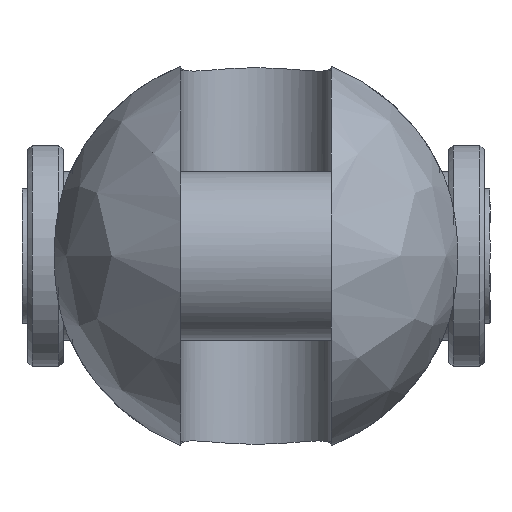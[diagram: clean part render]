
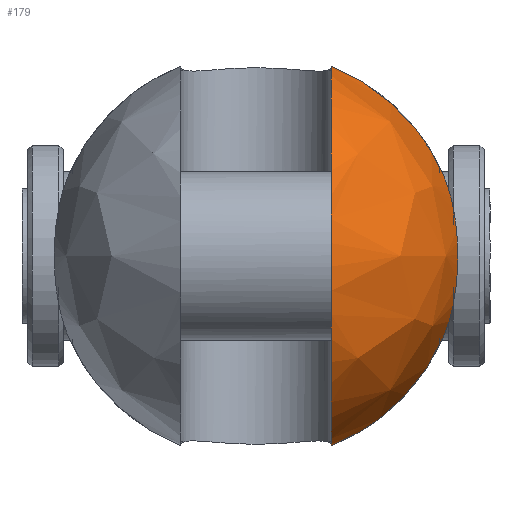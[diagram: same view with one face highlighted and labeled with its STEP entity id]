
A CAD part, left-side view. The second image highlights one B-rep face of the part: STEP entity #179.
In plain terms, the highlighted free-form (B-spline) face has degree [2, 2] with [9, 5] control points.
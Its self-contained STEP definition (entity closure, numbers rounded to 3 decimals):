
#179=ADVANCED_FACE('',(#320),#2417,.T.);
#320=FACE_OUTER_BOUND('',#481,.T.);
#481=EDGE_LOOP('',(#1194,#1195,#1196,#1197));
#1194=ORIENTED_EDGE('',*,*,#1579,.T.);
#1195=ORIENTED_EDGE('',*,*,#1600,.F.);
#1196=ORIENTED_EDGE('',*,*,#1617,.T.);
#1197=ORIENTED_EDGE('',*,*,#1595,.F.);
#1579=EDGE_CURVE('',#2249,#2248,#1983,.T.);
#1595=EDGE_CURVE('',#2249,#2261,#1993,.T.);
#1600=EDGE_CURVE('',#2268,#2248,#1994,.T.);
#1617=EDGE_CURVE('',#2268,#2261,#1786,.T.);
#1786=B_SPLINE_CURVE_WITH_KNOTS('',3,(#6054,#6055,#6056,#6057,#6058,#6059,
#6060,#6061,#6062,#6063,#6064,#6065,#6066,#6067),.UNSPECIFIED.,.F.,.F.,
(4,2,2,2,2,2,4),(-20.281,-17.119,-13.63,
-10.141,-6.652,-3.162,0.),.UNSPECIFIED.);
#1983=(
BOUNDED_CURVE()
B_SPLINE_CURVE(2,(#5899,#5900,#5901,#5902,#5903),.UNSPECIFIED.,.F.,.F.)
B_SPLINE_CURVE_WITH_KNOTS((3,2,3),(-67.141,-33.571,
0.),.UNSPECIFIED.)
CURVE()
GEOMETRIC_REPRESENTATION_ITEM()
RATIONAL_B_SPLINE_CURVE((1.,0.707,1.,0.707,1.))
REPRESENTATION_ITEM('')
);
#1993=(
BOUNDED_CURVE()
B_SPLINE_CURVE(2,(#5977,#5978,#5979),.UNSPECIFIED.,.F.,.F.)
B_SPLINE_CURVE_WITH_KNOTS((3,3),(0.,18.1),.UNSPECIFIED.)
CURVE()
GEOMETRIC_REPRESENTATION_ITEM()
RATIONAL_B_SPLINE_CURVE((1.,0.924,1.))
REPRESENTATION_ITEM('')
);
#1994=(
BOUNDED_CURVE()
B_SPLINE_CURVE(2,(#5988,#5989,#5990),.UNSPECIFIED.,.F.,.F.)
B_SPLINE_CURVE_WITH_KNOTS((3,3),(0.,18.1),.UNSPECIFIED.)
CURVE()
GEOMETRIC_REPRESENTATION_ITEM()
RATIONAL_B_SPLINE_CURVE((1.,0.924,1.))
REPRESENTATION_ITEM('')
);
#2248=VERTEX_POINT('',#5767);
#2249=VERTEX_POINT('',#5768);
#2261=VERTEX_POINT('',#5780);
#2268=VERTEX_POINT('',#5787);
#2417=(
BOUNDED_SURFACE()
B_SPLINE_SURFACE(2,2,((#5481,#5482,#5483,#5484,#5485),(#5486,#5487,#5488,
#5489,#5490),(#5491,#5492,#5493,#5494,#5495),(#5496,#5497,#5498,#5499,#5500),
(#5501,#5502,#5503,#5504,#5505),(#5506,#5507,#5508,#5509,#5510),(#5511,
#5512,#5513,#5514,#5515),(#5516,#5517,#5518,#5519,#5520),(#5521,#5522,#5523,
#5524,#5525)),.UNSPECIFIED.,.T.,.F.,.F.)
B_SPLINE_SURFACE_WITH_KNOTS((3,2,2,2,3),(3,2,3),(0.,36.128,72.257,
108.385,144.513),(0.,36.128,72.257),
 .UNSPECIFIED.)
GEOMETRIC_REPRESENTATION_ITEM()
RATIONAL_B_SPLINE_SURFACE(((1.,0.707,1.,0.707,1.),
(0.707,0.5,0.707,0.5,0.707),(1.,0.707,
1.,0.707,1.),(0.707,0.5,0.707,0.5,0.707),
(1.,0.707,1.,0.707,1.),(0.707,0.5,0.707,
0.5,0.707),(1.,0.707,1.,0.707,1.),(0.707,
0.5,0.707,0.5,0.707),(1.,0.707,1.,0.707,
1.)))
REPRESENTATION_ITEM('')
SURFACE()
);
#5481=CARTESIAN_POINT('',(-33.,0.,0.));
#5482=CARTESIAN_POINT('',(-33.,23.,0.));
#5483=CARTESIAN_POINT('',(-10.,23.,0.));
#5484=CARTESIAN_POINT('',(13.,23.,0.));
#5485=CARTESIAN_POINT('',(13.,0.,0.));
#5486=CARTESIAN_POINT('',(-33.,0.,0.));
#5487=CARTESIAN_POINT('',(-33.,23.,23.));
#5488=CARTESIAN_POINT('',(-10.,23.,23.));
#5489=CARTESIAN_POINT('',(13.,23.,23.));
#5490=CARTESIAN_POINT('',(13.,0.,0.));
#5491=CARTESIAN_POINT('',(-33.,0.,0.));
#5492=CARTESIAN_POINT('',(-33.,0.,23.));
#5493=CARTESIAN_POINT('',(-10.,0.,23.));
#5494=CARTESIAN_POINT('',(13.,0.,23.));
#5495=CARTESIAN_POINT('',(13.,0.,0.));
#5496=CARTESIAN_POINT('',(-33.,0.,0.));
#5497=CARTESIAN_POINT('',(-33.,-23.,23.));
#5498=CARTESIAN_POINT('',(-10.,-23.,23.));
#5499=CARTESIAN_POINT('',(13.,-23.,23.));
#5500=CARTESIAN_POINT('',(13.,0.,0.));
#5501=CARTESIAN_POINT('',(-33.,0.,0.));
#5502=CARTESIAN_POINT('',(-33.,-23.,0.));
#5503=CARTESIAN_POINT('',(-10.,-23.,0.));
#5504=CARTESIAN_POINT('',(13.,-23.,0.));
#5505=CARTESIAN_POINT('',(13.,0.,0.));
#5506=CARTESIAN_POINT('',(-33.,0.,0.));
#5507=CARTESIAN_POINT('',(-33.,-23.,-23.));
#5508=CARTESIAN_POINT('',(-10.,-23.,-23.));
#5509=CARTESIAN_POINT('',(13.,-23.,-23.));
#5510=CARTESIAN_POINT('',(13.,0.,0.));
#5511=CARTESIAN_POINT('',(-33.,0.,0.));
#5512=CARTESIAN_POINT('',(-33.,0.,-23.));
#5513=CARTESIAN_POINT('',(-10.,0.,-23.));
#5514=CARTESIAN_POINT('',(13.,0.,-23.));
#5515=CARTESIAN_POINT('',(13.,0.,0.));
#5516=CARTESIAN_POINT('',(-33.,0.,0.));
#5517=CARTESIAN_POINT('',(-33.,23.,-23.));
#5518=CARTESIAN_POINT('',(-10.,23.,-23.));
#5519=CARTESIAN_POINT('',(13.,23.,-23.));
#5520=CARTESIAN_POINT('',(13.,0.,0.));
#5521=CARTESIAN_POINT('',(-33.,0.,0.));
#5522=CARTESIAN_POINT('',(-33.,23.,0.));
#5523=CARTESIAN_POINT('',(-10.,23.,0.));
#5524=CARTESIAN_POINT('',(13.,23.,0.));
#5525=CARTESIAN_POINT('',(13.,0.,0.));
#5767=CARTESIAN_POINT('',(-10.,-8.5,-21.372));
#5768=CARTESIAN_POINT('',(-10.,-8.5,21.372));
#5780=CARTESIAN_POINT('',(-10.,-21.136,9.069));
#5787=CARTESIAN_POINT('',(-10.,-21.136,-9.069));
#5899=CARTESIAN_POINT('',(-10.,-8.5,21.372));
#5900=CARTESIAN_POINT('',(-31.372,-8.5,21.372));
#5901=CARTESIAN_POINT('',(-31.372,-8.5,0.));
#5902=CARTESIAN_POINT('',(-31.372,-8.5,-21.372));
#5903=CARTESIAN_POINT('',(-10.,-8.5,-21.372));
#5977=CARTESIAN_POINT('',(-10.,-8.5,21.372));
#5978=CARTESIAN_POINT('',(-10.,-17.372,17.843));
#5979=CARTESIAN_POINT('',(-10.,-21.136,9.069));
#5988=CARTESIAN_POINT('',(-10.,-21.136,-9.069));
#5989=CARTESIAN_POINT('',(-10.,-17.372,-17.843));
#5990=CARTESIAN_POINT('',(-10.,-8.5,-21.372));
#6054=CARTESIAN_POINT('',(-10.,-21.136,-9.069));
#6055=CARTESIAN_POINT('',(-10.69,-21.463,-8.309));
#6056=CARTESIAN_POINT('',(-11.292,-21.74,-7.463));
#6057=CARTESIAN_POINT('',(-12.295,-22.197,-5.677));
#6058=CARTESIAN_POINT('',(-12.754,-22.402,-4.582));
#6059=CARTESIAN_POINT('',(-13.356,-22.669,-2.294));
#6060=CARTESIAN_POINT('',(-13.5,-22.732,-1.101));
#6061=CARTESIAN_POINT('',(-13.5,-22.732,1.101));
#6062=CARTESIAN_POINT('',(-13.356,-22.669,2.294));
#6063=CARTESIAN_POINT('',(-12.754,-22.402,4.582));
#6064=CARTESIAN_POINT('',(-12.295,-22.197,5.677));
#6065=CARTESIAN_POINT('',(-11.292,-21.74,7.463));
#6066=CARTESIAN_POINT('',(-10.69,-21.463,8.309));
#6067=CARTESIAN_POINT('',(-10.,-21.136,9.069));
